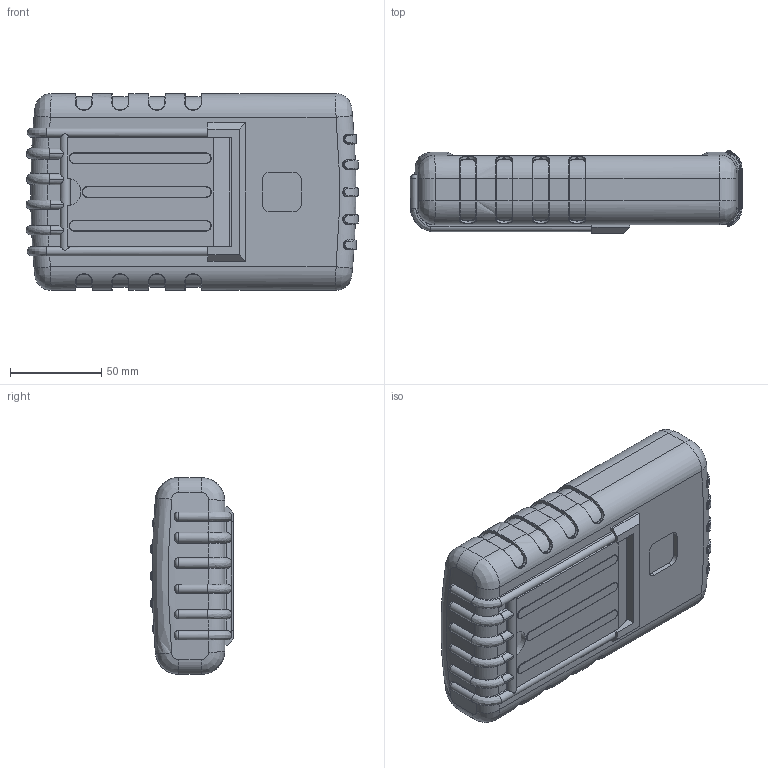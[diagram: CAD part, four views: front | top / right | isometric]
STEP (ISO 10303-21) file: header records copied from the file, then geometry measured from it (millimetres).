
FILE_DESCRIPTION (( 'STEP AP214' ), '1' );
FILE_NAME ('91-43-2A-R.STEP', '2020-10-19T15:27:31', ( 'Rudy' ), ( '' ), 'SwSTEP 2.0', 'SolidWorks 2014', '' );
FILE_SCHEMA (( 'AUTOMOTIVE_DESIGN' ));
Length unit declared in the file: millimetre
Products named in the file (8): 90 RBT; RT 90 stand; 90 PCB 2AA; 2AAdoor; 91 LCD Top; 90-2AA Deep  ; 91-43-2A-R
Assembly tree (7 placements, depth 3):
  91-43-2A-R
    90-2AA Deep  
    91 LCD Top
    2AAdoor
    90 PCB 2AA
    90 RBT
      90 RBT
      RT 90 stand
Bounding box: 182.05 x 45.61 x 108 mm (x, y, z)
Volume: 361268.7 mm3; surface area: 206367.6 mm2
Topology: 6 solids, 6 shells, 1479 faces, 3803 edges, 2367 vertices
Faces by surface type: plane 652, cylinder 439, bspline 180, torus 128, cone 62, sphere 18
Entity records: 56926 total; most frequent: CARTESIAN_POINT 21789, ORIENTED_EDGE 7570, DIRECTION 7006, EDGE_CURVE 3785, AXIS2_PLACEMENT_3D 2462, VERTEX_POINT 2359, VECTOR 2082, LINE 2082
